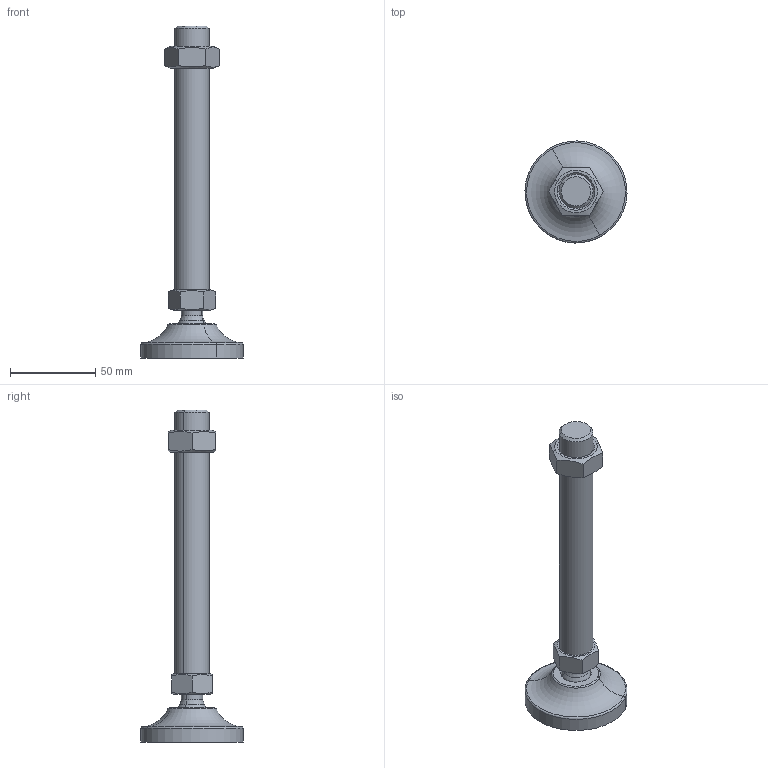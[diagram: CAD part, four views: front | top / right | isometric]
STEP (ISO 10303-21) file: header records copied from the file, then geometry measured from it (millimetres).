
FILE_DESCRIPTION(('CATIA V5 STEP Exchange'),'2;1');
FILE_NAME('C:\Users\ALI OZGUN\Desktop\alhan\saplama2\560602621.stp','2017-09-21T10:34:01+00:00',('none'),('none'),'CATIA Version 5 Release 21 GA (IN-10)','CATIA V5 STEP AP203','none');
FILE_SCHEMA(('CONFIG_CONTROL_DESIGN'));
Length unit declared in the file: millimetre
Products named in the file (1): 560602621
Bounding box: 59.98 x 59.98 x 195 mm (x, y, z)
Volume: 87274.7 mm3; surface area: 23958.3 mm2
Topology: 3 solids, 3 shells, 60 faces, 136 edges, 83 vertices
Faces by surface type: plane 20, cone 16, cylinder 14, torus 6, revolution 2, sphere 2
Entity records: 1873 total; most frequent: CARTESIAN_POINT 631, ORIENTED_EDGE 268, DIRECTION 186, EDGE_CURVE 134, AXIS2_PLACEMENT_3D 100, VERTEX_POINT 83, EDGE_LOOP 67, ADVANCED_FACE 60
